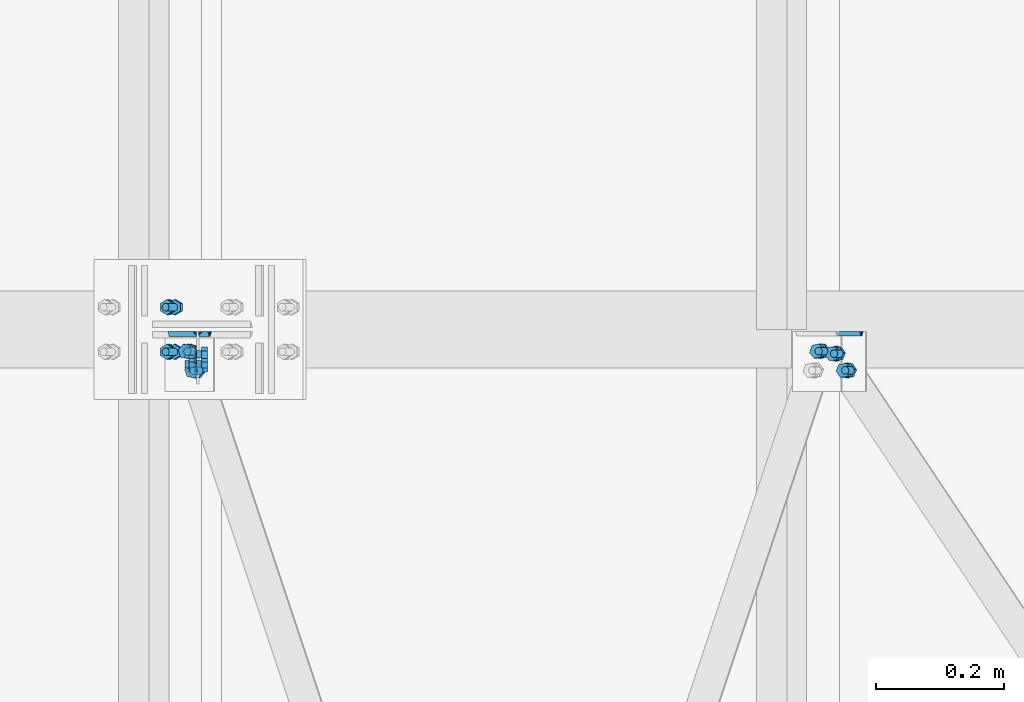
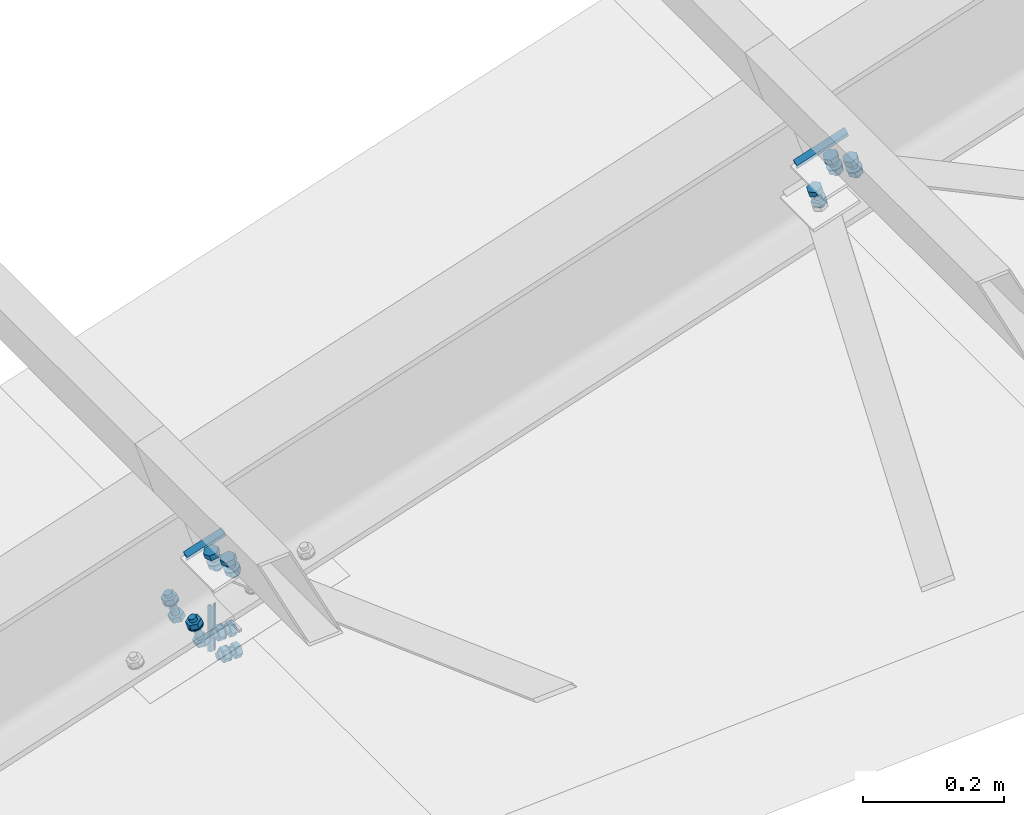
# One storey, part 38 of 53: 35 mechanical fasteners, 6 fasteners.
"""IFC4 building model written with IfcOpenShell, lengths in metres."""

import ifcopenshell
import ifcopenshell.guid

model = None  # the IFC model being written
_history = None  # IfcOwnerHistory: only IFC2X3 demands one
_inside = {}  # id of a spatial element -> (the spatial element, [elements in it])
_under = {}  # id of a project, library or spatial element -> (it, [spatial elements below it])
_declared = {}  # id of a project -> (the project, [libraries it declares])
_typed = {}  # id of a type object -> (the type object, [elements of that type])
_made_of = {}  # id of a material, layer set ... -> (it, [elements and type objects made of it])


def new_model(schema):
    """Start an empty IFC model of exactly this schema.

    Asked for "IFC4X3", IfcOpenShell would pick the latest addendum, in which some entities
    have other attributes; the version numbers below select the first issue.
    IFC2X3 requires an IfcOwnerHistory on every rooted entity: one is made here for all.
    """
    global model, _history
    if schema == "IFC4X3":
        model = ifcopenshell.file(schema_version=(4, 3, 0, 0))
    else:
        model = ifcopenshell.file(schema=schema)
    _inside.clear()
    _under.clear()
    _declared.clear()
    _typed.clear()
    _made_of.clear()
    _history = None
    if model.schema == "IFC2X3":
        org = make("IfcOrganization", Name="unknown")
        user = make(
            "IfcPersonAndOrganization",
            ThePerson=make("IfcPerson", FamilyName="unknown"),
            TheOrganization=org,
        )
        app = make(
            "IfcApplication",
            ApplicationDeveloper=org,
            Version="unknown",
            ApplicationFullName="unknown",
            ApplicationIdentifier="unknown",
        )
        _history = make(
            "IfcOwnerHistory",
            OwningUser=user,
            OwningApplication=app,
            ChangeAction="ADDED",
            CreationDate=0,
        )
    return model


def make(cls, **values):
    """One entity of the class cls with the attributes given. An attribute that is None is left unset."""
    return model.create_entity(
        cls, **{name: value for name, value in values.items() if value is not None}
    )


def rooted(cls, **values):
    """An entity with a GlobalId (a new one), such as an element, a storey or a relation."""
    return make(cls, GlobalId=ifcopenshell.guid.new(), OwnerHistory=_history, **values)


def si_unit(unit_type, name, prefix=None):
    """IfcSIUnit, for example si_unit("LENGTHUNIT", "METRE", prefix="MILLI")."""
    return make("IfcSIUnit", UnitType=unit_type, Prefix=prefix, Name=name)


def assignment(units):
    """IfcUnitAssignment: the units of a project."""
    return None if units is None else make("IfcUnitAssignment", Units=units)


def point(xyz):
    """IfcCartesianPoint."""
    return None if xyz is None else make("IfcCartesianPoint", Coordinates=xyz)


def direction(xyz):
    """IfcDirection."""
    return None if xyz is None else make("IfcDirection", DirectionRatios=xyz)


def frame(location, z_axis=None, x_axis=None):
    """IfcAxis2Placement3D, a coordinate frame: its origin and axes. An axis left out is left unset."""
    return make(
        "IfcAxis2Placement3D",
        Location=point(location),
        Axis=direction(z_axis),
        RefDirection=direction(x_axis),
    )


def origin_with_axes():
    """The frame at (0, 0, 0) with the z axis (0, 0, 1) and the x axis (1, 0, 0) written out."""
    return frame((0.0, 0.0, 0.0), z_axis=(0.0, 0.0, 1.0), x_axis=(1.0, 0.0, 0.0))


def place(relative_to, where):
    """IfcLocalPlacement: puts the frame where relative to a parent placement (None: the world)."""
    return make(
        "IfcLocalPlacement", PlacementRelTo=relative_to, RelativePlacement=where
    )


def context(
    kind, dimensions, precision=None, world=None, true_north=None, identifier=None
):
    """IfcGeometricRepresentationContext, for example the 3D "Model" context."""
    return make(
        "IfcGeometricRepresentationContext",
        ContextIdentifier=identifier,
        ContextType=kind,
        CoordinateSpaceDimension=dimensions,
        Precision=precision,
        WorldCoordinateSystem=world,
        TrueNorth=true_north,
    )


def project(units=None, contexts=None):
    """IfcProject with its units and contexts."""
    return rooted(
        "IfcProject",
        Name="project",
        RepresentationContexts=contexts,
        UnitsInContext=assignment(units),
    )


def spatial(cls, under=None, at=None, **own):
    """A site, building, storey or space (cls), placed at a placement, below another one or the project."""
    s = rooted(cls, ObjectPlacement=at, **own)
    if under is not None:
        _under.setdefault(under.id(), (under, []))[1].append(s)
    return s


def polyline(points):
    """IfcPolyline through the points."""
    return make("IfcPolyline", Points=[point(p) for p in points])


def outline(outer, holes=None, kind="AREA"):
    """IfcArbitraryClosedProfileDef: a profile drawn as a closed curve; with holes, ...WithVoids."""
    if holes is None:
        return make("IfcArbitraryClosedProfileDef", ProfileType=kind, OuterCurve=outer)
    return make(
        "IfcArbitraryProfileDefWithVoids",
        ProfileType=kind,
        OuterCurve=outer,
        InnerCurves=holes,
    )


def extrude(swept, where, along, depth):
    """IfcExtrudedAreaSolid: the profile swept, set in the frame where, extruded along a direction by depth."""
    return make(
        "IfcExtrudedAreaSolid",
        SweptArea=swept,
        Position=where,
        ExtrudedDirection=direction(along),
        Depth=depth,
    )


def shape(context_of_items, identifier, shape_type, items):
    """IfcShapeRepresentation: the items that make up one representation, for example the "Body"."""
    return make(
        "IfcShapeRepresentation",
        ContextOfItems=context_of_items,
        RepresentationIdentifier=identifier,
        RepresentationType=shape_type,
        Items=items,
    )


def made_of(thing, what):
    """Note that an element or type object is made of a material, layer set ...; save() writes the relation."""
    if what is not None:
        _made_of.setdefault(what.id(), (what, []))[1].append(thing)
    return thing


def type_object(cls, material=None, **own):
    """A type object (cls), such as IfcWallType, which elements share."""
    return made_of(rooted(cls, **own), material)


def element(
    cls,
    number,
    at=None,
    inside=None,
    cuts=None,
    type_object=None,
    material=None,
    context=None,
    identifier="Body",
    shape_type=None,
    held_by="IfcProductDefinitionShape",
    body=None,
    shapes=None,
    **own,
):
    """One element of the class cls, such as IfcWall. Its Tag is "e" and its number.

    at: its placement. inside: the storey or other place that contains it. cuts: it is an
    opening in that element (IfcRelVoidsElement). A single representation is given by context,
    identifier, shape_type and body (its items); several are given by shapes. held_by: the class
    of the entity that holds the representations. save() writes the other relations.
    """
    e = rooted(cls, Tag="e%d" % number, ObjectPlacement=at, **own)
    if body is not None:
        shapes = [shape(context, identifier, shape_type, body)]
    if shapes is not None:
        e.Representation = make(held_by, Representations=shapes)
    if inside is not None:
        _inside.setdefault(inside.id(), (inside, []))[1].append(e)
    if cuts is not None:
        rooted(
            "IfcRelVoidsElement", RelatingBuildingElement=cuts, RelatedOpeningElement=e
        )
    if type_object is not None:
        _typed.setdefault(type_object.id(), (type_object, []))[1].append(e)
    return made_of(e, material)


def aggregate(whole, parts):
    """IfcRelAggregates: a whole, such as a stair, and the parts it consists of."""
    return rooted("IfcRelAggregates", RelatingObject=whole, RelatedObjects=parts)


def save(model, path):
    """Write the relations noted so far, then the file.

    IfcRelAggregates (storeys below a building ...), IfcRelContainedInSpatialStructure (elements
    in a storey), IfcRelDefinesByType, IfcRelAssociatesMaterial and IfcRelDeclares: one each for
    every whole, place, type object, material and project.
    """
    for whole, parts in _under.values():
        aggregate(whole, parts)
    for where, things in _inside.values():
        rooted(
            "IfcRelContainedInSpatialStructure",
            RelatedElements=things,
            RelatingStructure=where,
        )
    for kind, things in _typed.values():
        rooted("IfcRelDefinesByType", RelatedObjects=things, RelatingType=kind)
    for what, things in _made_of.values():
        rooted("IfcRelAssociatesMaterial", RelatedObjects=things, RelatingMaterial=what)
    for by, libraries in _declared.values():
        rooted("IfcRelDeclares", RelatingContext=by, RelatedDefinitions=libraries)
    model.write(path)


model = new_model("IFC4")

# Units and contexts
model_context = context("Model", 3, precision=1e-05, world=origin_with_axes())
ifc_project = project(units=[si_unit("LENGTHUNIT", "METRE"), si_unit("AREAUNIT", "SQUARE_METRE"), si_unit("VOLUMEUNIT", "CUBIC_METRE"), si_unit("MASSUNIT", "GRAM", prefix="KILO"), si_unit("TIMEUNIT", "SECOND"), si_unit("PLANEANGLEUNIT", "RADIAN"), si_unit("SOLIDANGLEUNIT", "STERADIAN"), si_unit("THERMODYNAMICTEMPERATUREUNIT", "DEGREE_CELSIUS")], contexts=[model_context])

# Site, building, storey
placement_1 = place(None, origin_with_axes())
site = spatial("IfcSite", under=ifc_project, at=placement_1, Name="Italia", CompositionType="ELEMENT")
building = spatial("IfcBuilding", under=site, at=placement_1, Name="Capannone", CompositionType="ELEMENT")
storey_placement = place(None, frame((0.0, 0.0, 5.550000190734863), z_axis=(0.0, 0.0, 1.0), x_axis=(1.0, 0.0, 0.0)))
storey = spatial("IfcBuildingStorey", under=building, at=storey_placement, Name="Storey 1", CompositionType="ELEMENT", Elevation=5.550000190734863)

# Mechanical fasteners
mechanical_fastener_type_1 = type_object("IfcMechanicalFastenerType", Name="Collegamento -1057_-1087", PredefinedType="BOLT")
placement_2 = place(placement_1, origin_with_axes())
mechanical_fastener_1_placement = place(placement_2, origin_with_axes())
element("IfcMechanicalFastener", 1, at=mechanical_fastener_1_placement, inside=storey, type_object=mechanical_fastener_type_1, Name="Collegamento -1057_-1087", NominalDiameter=0.0119996, context=model_context, shape_type="SweptSolid", body=[
    extrude(outline(polyline([(0.0, 0.0), (-0.00982285, -0.00689292), (-0.00876427, -0.018846), (0.0021162, -0.0239065), (0.011939, -0.0170135), (0.0108805, -0.0050602), (0.0, 0.0)])), frame((1.00308, 14.9631, 5.99274), z_axis=(-0.312149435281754, 0.0, 0.950033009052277), x_axis=(0.0, -1.0, 0.0)), (0.0, 0.0, 1.0), 0.00960016),
])
mechanical_fastener_type_2 = type_object("IfcMechanicalFastenerType", Name="Collegamento -1057_-1087", PredefinedType="BOLT")
mechanical_fastener_2_placement = place(placement_2, origin_with_axes())
element("IfcMechanicalFastener", 2, at=mechanical_fastener_2_placement, inside=storey, type_object=mechanical_fastener_type_2, Name="Collegamento -1057_-1087", NominalDiameter=0.012, context=model_context, shape_type="SweptSolid", body=[
    extrude(outline(polyline([(0.0, 0.0), (-0.000204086, -0.00155306), (-0.000802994, -0.00300026), (-0.00175667, -0.00424266), (-0.00299931, -0.00519633), (-0.00444698, -0.00579572), (-0.00599957, -0.00600004), (-0.00755215, -0.00579572), (-0.00899982, -0.00519633), (-0.0102425, -0.00424266), (-0.0111961, -0.00300026), (-0.011795, -0.00155306), (-0.0119991, 0.0), (-0.011795, 0.00155282), (-0.0111961, 0.00300002), (-0.0102425, 0.00424266), (-0.00899982, 0.00519609), (-0.00755215, 0.00579548), (-0.00599957, 0.00600004), (-0.00444698, 0.00579548), (-0.00299931, 0.00519609), (-0.00175667, 0.00424242), (-0.000802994, 0.00300002), (-0.000204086, 0.00155282), (0.0, 0.0)])), frame((1.00046, 14.9561, 5.96241), z_axis=(-0.312152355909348, 0.0, 0.95003205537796), x_axis=(0.0, -1.0, 0.0)), (0.0, 0.0, 1.0), 0.0279999),
])
mechanical_fastener_type_3 = type_object("IfcMechanicalFastenerType", Name="Collegamento -1057_-1087", PredefinedType="BOLT")
mechanical_fastener_3_placement = place(placement_2, origin_with_axes())
element("IfcMechanicalFastener", 3, at=mechanical_fastener_3_placement, inside=storey, type_object=mechanical_fastener_type_3, Name="Collegamento -1057_-1087", NominalDiameter=0.0119997, context=model_context, shape_type="SweptSolid", body=[
    extrude(outline(polyline([(0.0, 0.0), (-0.00982285, -0.00689292), (-0.00876427, -0.0188463), (0.0021162, -0.0239067), (0.011939, -0.0170138), (0.0108805, -0.00506043), (0.0, 0.0)])), frame((1.00982, 14.9631, 5.97222), z_axis=(-0.312149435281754, 0.0, 0.950033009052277), x_axis=(0.0, -1.0, 0.0)), (0.0, 0.0, 1.0), 0.00960016),
])
mechanical_fastener_type_4 = type_object("IfcMechanicalFastenerType", Name="Collegamento -1057_-1087", PredefinedType="BOLT")
mechanical_fastener_4_placement = place(placement_2, origin_with_axes())
element("IfcMechanicalFastener", 4, at=mechanical_fastener_4_placement, inside=storey, type_object=mechanical_fastener_type_4, Name="Collegamento -1057_-1087", NominalDiameter=0.024, context=model_context, shape_type="SweptSolid", body=[
    extrude(outline(polyline([(0.0, 0.0), (-0.000409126, -0.00310588), (-0.00160789, -0.00600004), (-0.00351524, -0.00848556), (-0.00600052, -0.0103924), (-0.00889397, -0.0115912), (-0.0120001, -0.0120001), (-0.0151062, -0.0115912), (-0.0179996, -0.0103924), (-0.0204849, -0.00848556), (-0.0223923, -0.00600004), (-0.023591, -0.00310588), (-0.0240002, 0.0), (-0.023591, 0.00310564), (-0.0223923, 0.0059998), (-0.0204849, 0.00848532), (-0.0179996, 0.0103922), (-0.0151062, 0.011591), (-0.0120001, 0.0120001), (-0.00889397, 0.011591), (-0.00600052, 0.0103922), (-0.00351524, 0.00848532), (-0.00160789, 0.0059998), (-0.000409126, 0.00310564), (0.0, 0.0)])), frame((0.99547, 14.9501, 5.97761), z_axis=(-0.312200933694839, 0.0, 0.95001608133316), x_axis=(0.0, -1.0, 0.0)), (0.0, 0.0, 1.0), 0.00199967),
])
mechanical_fastener_type_5 = type_object("IfcMechanicalFastenerType", Name="Collegamento -1057_-1087", PredefinedType="BOLT")
mechanical_fastener_5_placement = place(placement_2, origin_with_axes())
element("IfcMechanicalFastener", 5, at=mechanical_fastener_5_placement, inside=storey, type_object=mechanical_fastener_type_5, Name="Collegamento -1057_-1087", NominalDiameter=0.0119993, context=model_context, shape_type="SweptSolid", body=[
    extrude(outline(polyline([(0.0, 0.0), (-0.00982285, -0.00689268), (-0.00876522, -0.018846), (0.0021162, -0.0239065), (0.0119381, -0.0170135), (0.0108805, -0.0050602), (0.0, 0.0)])), frame((1.02054, 14.9369, 5.99848), z_axis=(-0.312149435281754, 0.0, 0.950033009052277), x_axis=(0.0, -1.0, 0.0)), (0.0, 0.0, 1.0), 0.00960016),
])
mechanical_fastener_type_6 = type_object("IfcMechanicalFastenerType", Name="Collegamento -1057_-1087", PredefinedType="BOLT")
mechanical_fastener_6_placement = place(placement_2, origin_with_axes())
element("IfcMechanicalFastener", 6, at=mechanical_fastener_6_placement, inside=storey, type_object=mechanical_fastener_type_6, Name="Collegamento -1057_-1087", NominalDiameter=0.012, context=model_context, shape_type="SweptSolid", body=[
    extrude(outline(polyline([(0.0, 0.0), (-0.000204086, -0.00155282), (-0.000802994, -0.00299978), (-0.00175667, -0.00424242), (-0.00299931, -0.00519609), (-0.00444698, -0.00579548), (-0.00599957, -0.00600004), (-0.00755215, -0.00579548), (-0.00899982, -0.00519609), (-0.0102425, -0.00424242), (-0.0111961, -0.00299978), (-0.011795, -0.00155282), (-0.0119991, 0.0), (-0.011795, 0.00155306), (-0.0111961, 0.00300002), (-0.0102425, 0.0042429), (-0.00899982, 0.00519633), (-0.00755215, 0.00579548), (-0.00599957, 0.00600028), (-0.00444698, 0.00579548), (-0.00299931, 0.00519633), (-0.00175667, 0.0042429), (-0.000802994, 0.00300002), (-0.000204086, 0.00155306), (0.0, 0.0)])), frame((1.01793, 14.9299, 5.96814), z_axis=(-0.312150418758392, 0.0, 0.950032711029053), x_axis=(0.0, -1.0, 0.0)), (0.0, 0.0, 1.0), 0.0279999),
])
mechanical_fastener_type_7 = type_object("IfcMechanicalFastenerType", Name="Collegamento -1057_-1087", PredefinedType="BOLT")
mechanical_fastener_7_placement = place(placement_2, origin_with_axes())
element("IfcMechanicalFastener", 7, at=mechanical_fastener_7_placement, inside=storey, type_object=mechanical_fastener_type_7, Name="Collegamento -1057_-1087", NominalDiameter=0.0119992, context=model_context, shape_type="SweptSolid", body=[
    extrude(outline(polyline([(0.0, 0.0), (-0.00982285, -0.00689292), (-0.00876522, -0.0188463), (0.0021162, -0.0239065), (0.0119381, -0.0170138), (0.0108805, -0.00506043), (0.0, 0.0)])), frame((1.02728, 14.9369, 5.97795), z_axis=(-0.312149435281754, 0.0, 0.950033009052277), x_axis=(0.0, -1.0, 0.0)), (0.0, 0.0, 1.0), 0.00960016),
])
mechanical_fastener_type_8 = type_object("IfcMechanicalFastenerType", Name="Collegamento -1057_-1087", PredefinedType="BOLT")
mechanical_fastener_8_placement = place(placement_2, origin_with_axes())
element("IfcMechanicalFastener", 8, at=mechanical_fastener_8_placement, inside=storey, type_object=mechanical_fastener_type_8, Name="Collegamento -1057_-1087", NominalDiameter=0.024, context=model_context, shape_type="SweptSolid", body=[
    extrude(outline(polyline([(0.0, 0.0), (-0.000409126, -0.00310612), (-0.00160789, -0.00600004), (-0.00351524, -0.00848532), (-0.00600052, -0.0103927), (-0.00889397, -0.0115914), (-0.0120001, -0.0120001), (-0.0151062, -0.0115914), (-0.0179996, -0.0103927), (-0.0204849, -0.00848532), (-0.0223923, -0.00600004), (-0.023591, -0.00310612), (-0.0240002, 0.0), (-0.023591, 0.00310564), (-0.0223923, 0.0059998), (-0.0204849, 0.00848508), (-0.0179996, 0.0103922), (-0.0151062, 0.011591), (-0.0120001, 0.0119998), (-0.00889397, 0.011591), (-0.00600052, 0.0103922), (-0.00351524, 0.00848508), (-0.00160789, 0.0059998), (-0.000409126, 0.00310564), (0.0, 0.0)])), frame((1.01293, 14.9239, 5.98334), z_axis=(-0.312059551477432, 0.0, 0.95006251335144), x_axis=(0.0, -1.0, 0.0)), (0.0, 0.0, 1.0), 0.00200058),
])

# Fasteners
fastener_type_1 = type_object("IfcFastenerType", Name="Collegamento -1057_-1087", PredefinedType="WELD")
fastener_1_placement = place(placement_2, origin_with_axes())
element("IfcFastener", 9, at=fastener_1_placement, inside=storey, type_object=fastener_type_1, Name="Collegamento -1057_-1087", context=model_context, shape_type="SweptSolid", body=[
    extrude(outline(polyline([(0.0, 0.0), (-0.00717258, 0.00695753), (0.0, 0.00695753), (0.0, 0.0)])), frame((0.954126, 14.9969, 5.96412), z_axis=(0.950030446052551, 0.0, 0.312157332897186), x_axis=(0.0, 1.0, 0.0)), (0.0, 0.0, 1.0), 0.0880986),
])
fastener_type_2 = type_object("IfcFastenerType", Name="Collegamento -1057_-1087", PredefinedType="WELD")
fastener_2_placement = place(placement_2, origin_with_axes())
element("IfcFastener", 10, at=fastener_2_placement, inside=storey, type_object=fastener_type_2, Name="Collegamento -1057_-1087", context=model_context, shape_type="SweptSolid", body=[
    extrude(outline(polyline([(0.0, 0.0), (0.00717258, -0.00695848), (0.0, -0.00695848), (0.0, 0.0)])), frame((1.03195, 14.9969, 6.00949), z_axis=(-0.950030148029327, 0.0, -0.312158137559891), x_axis=(0.0, -1.0, 0.0)), (0.0, 0.0, 1.0), 0.0880984),
])

# Mechanical fasteners
mechanical_fastener_type_9 = type_object("IfcMechanicalFastenerType", Name="Collegamento -1057_0109", PredefinedType="BOLT")
mechanical_fastener_9_placement = place(placement_2, origin_with_axes())
element("IfcMechanicalFastener", 11, at=mechanical_fastener_9_placement, inside=storey, type_object=mechanical_fastener_type_9, Name="Collegamento -1057_0109", NominalDiameter=0.0119998, context=model_context, shape_type="SweptSolid", body=[
    extrude(outline(polyline([(0.0, 0.0), (-0.011323, 0.00397301), (-0.0204258, -0.00384665), (-0.0182047, -0.0156395), (-0.00688171, -0.0196123), (0.00222111, -0.0117927), (0.0, 0.0)])), frame((0.975017, 14.9569, 5.94141), z_axis=(-0.312149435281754, 0.0, 0.950033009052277), x_axis=(0.0, -1.0, 0.0)), (0.0, 0.0, 1.0), 0.00960016),
])
mechanical_fastener_type_10 = type_object("IfcMechanicalFastenerType", Name="Collegamento -1057_0109", PredefinedType="BOLT")
mechanical_fastener_10_placement = place(placement_2, origin_with_axes())
element("IfcMechanicalFastener", 12, at=mechanical_fastener_10_placement, inside=storey, type_object=mechanical_fastener_type_10, Name="Collegamento -1057_0109", NominalDiameter=0.012, context=model_context, shape_type="SweptSolid", body=[
    extrude(outline(polyline([(0.0, 0.0), (-0.000204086, -0.00155306), (-0.000802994, -0.00300026), (-0.00175667, -0.00424266), (-0.00299931, -0.00519633), (-0.00444698, -0.00579572), (-0.00599957, -0.00600004), (-0.00755215, -0.00579572), (-0.00899982, -0.00519633), (-0.0102425, -0.00424266), (-0.0111961, -0.00300026), (-0.011795, -0.00155306), (-0.0119991, 0.0), (-0.011795, 0.00155282), (-0.0111961, 0.00300002), (-0.0102425, 0.00424242), (-0.00899982, 0.00519609), (-0.00755215, 0.00579548), (-0.00599957, 0.00600004), (-0.00444698, 0.00579548), (-0.00299931, 0.00519609), (-0.00175667, 0.00424242), (-0.000802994, 0.00300002), (-0.000204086, 0.00155282), (0.0, 0.0)])), frame((0.976328, 14.96, 5.91237), z_axis=(-0.312152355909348, 0.0, 0.95003205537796), x_axis=(0.0, -1.0, 0.0)), (0.0, 0.0, 1.0), 0.0279999),
])
mechanical_fastener_type_11 = type_object("IfcMechanicalFastenerType", Name="Collegamento -1057_0109", PredefinedType="BOLT")
mechanical_fastener_11_placement = place(placement_2, origin_with_axes())
element("IfcMechanicalFastener", 13, at=mechanical_fastener_11_placement, inside=storey, type_object=mechanical_fastener_type_11, Name="Collegamento -1057_0109", NominalDiameter=0.0119998, context=model_context, shape_type="SweptSolid", body=[
    extrude(outline(polyline([(0.0, 0.0), (-0.011323, 0.00397301), (-0.0204258, -0.00384688), (-0.0182047, -0.0156395), (-0.00688171, -0.0196126), (0.00222111, -0.0117927), (0.0, 0.0)])), frame((0.98176, 14.9569, 5.92089), z_axis=(-0.312143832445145, 0.0, 0.950034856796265), x_axis=(0.0, -1.0, 0.0)), (0.0, 0.0, 1.0), 0.00960014),
])
mechanical_fastener_type_12 = type_object("IfcMechanicalFastenerType", Name="Collegamenti 0101_0001 0103_0003 0105_0005 0107_0007 0109_0009 0111_0011", PredefinedType="BOLT")
mechanical_fastener_12_placement = place(placement_2, origin_with_axes())
element("IfcMechanicalFastener", 14, at=mechanical_fastener_12_placement, inside=storey, type_object=mechanical_fastener_type_12, Name="Collegamenti 0101_0001 0103_0003 0105_0005 0107_0007 0109_0009 0111_0011", NominalDiameter=0.0119998, context=model_context, shape_type="SweptSolid", body=[
    extrude(outline(polyline([(0.0, 0.0), (0.0120001, 0.0), (0.0179996, -0.0103922), (0.0120001, -0.0207846), (0.0, -0.0207846), (-0.00600052, -0.0103922), (0.0, 0.0)])), frame((-0.0329462, 15.029, 5.52339), z_axis=(0.312148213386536, 0.0, -0.95003342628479), x_axis=(0.0, 1.0, 0.0)), (0.0, 0.0, 1.0), 0.00960015),
])
mechanical_fastener_type_13 = type_object("IfcMechanicalFastenerType", Name="Collegamenti 0101_0001 0103_0003 0105_0005 0107_0007 0109_0009 0111_0011", PredefinedType="BOLT")
mechanical_fastener_13_placement = place(placement_2, origin_with_axes())
element("IfcMechanicalFastener", 15, at=mechanical_fastener_13_placement, inside=storey, type_object=mechanical_fastener_type_13, Name="Collegamenti 0101_0001 0103_0003 0105_0005 0107_0007 0109_0009 0111_0011", NominalDiameter=0.012, context=model_context, shape_type="SweptSolid", body=[
    extrude(outline(polyline([(0.0, 0.0), (-0.000204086, -0.00155294), (-0.000802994, -0.00300002), (-0.00175667, -0.00424266), (-0.00299931, -0.00519621), (-0.00444698, -0.0057956), (-0.00599957, -0.00600004), (-0.00755215, -0.0057956), (-0.00899982, -0.00519621), (-0.0102425, -0.00424266), (-0.0111961, -0.00300002), (-0.011795, -0.00155294), (-0.0119991, 0.0), (-0.011795, 0.00155306), (-0.0111961, 0.00300002), (-0.0102425, 0.00424254), (-0.00899982, 0.00519609), (-0.00755215, 0.0057956), (-0.00599957, 0.00600004), (-0.00444698, 0.0057956), (-0.00299931, 0.00519609), (-0.00175667, 0.00424254), (-0.000802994, 0.00300002), (-0.000204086, 0.00155306), (0.0, 0.0)])), frame((-0.0561794, 15.041, 5.5608), z_axis=(0.312153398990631, 0.0, -0.950031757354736), x_axis=(0.0, 1.0, 0.0)), (0.0, 0.0, 1.0), 0.0428),
])
mechanical_fastener_type_14 = type_object("IfcMechanicalFastenerType", Name="Collegamenti 0101_0001 0103_0003 0105_0005 0107_0007 0109_0009 0111_0011", PredefinedType="BOLT")
mechanical_fastener_14_placement = place(placement_2, origin_with_axes())
element("IfcMechanicalFastener", 16, at=mechanical_fastener_14_placement, inside=storey, type_object=mechanical_fastener_type_14, Name="Collegamenti 0101_0001 0103_0003 0105_0005 0107_0007 0109_0009 0111_0011", NominalDiameter=0.0119998, context=model_context, shape_type="SweptSolid", body=[
    extrude(outline(polyline([(0.0, 0.0), (0.0120001, 0.0), (0.0179996, -0.0103922), (0.0120001, -0.0207845), (0.0, -0.0207845), (-0.00600052, -0.0103922), (0.0, 0.0)])), frame((-0.0443086, 15.029, 5.55797), z_axis=(0.31214839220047, 0.0, -0.9500333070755), x_axis=(0.0, 1.0, 0.0)), (0.0, 0.0, 1.0), 0.00960015),
])
mechanical_fastener_type_15 = type_object("IfcMechanicalFastenerType", Name="Collegamenti 0101_0001 0103_0003 0105_0005 0107_0007 0109_0009 0111_0011", PredefinedType="BOLT")
mechanical_fastener_15_placement = place(placement_2, origin_with_axes())
element("IfcMechanicalFastener", 17, at=mechanical_fastener_15_placement, inside=storey, type_object=mechanical_fastener_type_15, Name="Collegamenti 0101_0001 0103_0003 0105_0005 0107_0007 0109_0009 0111_0011", NominalDiameter=0.024, context=model_context, shape_type="SweptSolid", body=[
    extrude(outline(polyline([(0.0, 0.0), (-0.000409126, -0.00310588), (-0.00160789, -0.00600004), (-0.00351524, -0.00848532), (-0.00600052, -0.0103923), (-0.00889397, -0.0115912), (-0.0120001, -0.012), (-0.0151062, -0.0115912), (-0.0179996, -0.0103923), (-0.0204849, -0.00848532), (-0.0223923, -0.00600004), (-0.023591, -0.00310588), (-0.0240002, 0.0), (-0.023591, 0.00310588), (-0.0223923, 0.00600004), (-0.0204849, 0.0084852), (-0.0179996, 0.0103923), (-0.0151062, 0.0115912), (-0.0120001, 0.012), (-0.00889397, 0.0115912), (-0.00600052, 0.0103923), (-0.00351524, 0.0084852), (-0.00160789, 0.00600004), (-0.000409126, 0.00310588), (0.0, 0.0)])), frame((-0.051185, 15.047, 5.5456), z_axis=(0.312062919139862, 0.0, -0.950061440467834), x_axis=(0.0, 1.0, 0.0)), (0.0, 0.0, 1.0), 0.00200058),
])
mechanical_fastener_type_16 = type_object("IfcMechanicalFastenerType", Name="Collegamenti 0101_0001 0103_0003 0105_0005 0107_0007 0109_0009 0111_0011", PredefinedType="BOLT")
mechanical_fastener_16_placement = place(placement_2, origin_with_axes())
element("IfcMechanicalFastener", 18, at=mechanical_fastener_16_placement, inside=storey, type_object=mechanical_fastener_type_16, Name="Collegamenti 0101_0001 0103_0003 0105_0005 0107_0007 0109_0009 0111_0011", NominalDiameter=0.0119998, context=model_context, shape_type="SweptSolid", body=[
    extrude(outline(polyline([(0.0, 0.0), (0.0120001, 0.0), (0.0180006, -0.0103922), (0.0120001, -0.0207846), (0.0, -0.0207846), (-0.00599957, -0.0103922), (0.0, 0.0)])), frame((-0.0329462, 14.959, 5.52339), z_axis=(0.312148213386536, 0.0, -0.95003342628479), x_axis=(0.0, 1.0, 0.0)), (0.0, 0.0, 1.0), 0.00960015),
])
mechanical_fastener_type_17 = type_object("IfcMechanicalFastenerType", Name="Collegamenti 0101_0001 0103_0003 0105_0005 0107_0007 0109_0009 0111_0011", PredefinedType="BOLT")
mechanical_fastener_17_placement = place(placement_2, origin_with_axes())
element("IfcMechanicalFastener", 19, at=mechanical_fastener_17_placement, inside=storey, type_object=mechanical_fastener_type_17, Name="Collegamenti 0101_0001 0103_0003 0105_0005 0107_0007 0109_0009 0111_0011", NominalDiameter=0.012, context=model_context, shape_type="SweptSolid", body=[
    extrude(outline(polyline([(0.0, 0.0), (-0.000204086, -0.00155294), (-0.000802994, -0.00300002), (-0.00175667, -0.00424266), (-0.00299931, -0.00519621), (-0.00444698, -0.0057956), (-0.00599957, -0.00600004), (-0.00755215, -0.0057956), (-0.00899982, -0.00519621), (-0.0102425, -0.00424266), (-0.0111961, -0.00300002), (-0.011795, -0.00155294), (-0.0119991, 0.0), (-0.011795, 0.00155306), (-0.0111961, 0.00300002), (-0.0102425, 0.00424254), (-0.00899982, 0.00519609), (-0.00755215, 0.0057956), (-0.00599957, 0.00600004), (-0.00444698, 0.0057956), (-0.00299931, 0.00519609), (-0.00175667, 0.00424254), (-0.000802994, 0.00300002), (-0.000204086, 0.00155306), (0.0, 0.0)])), frame((-0.0561794, 14.971, 5.5608), z_axis=(0.312153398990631, 0.0, -0.950031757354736), x_axis=(0.0, 1.0, 0.0)), (0.0, 0.0, 1.0), 0.0428),
])
mechanical_fastener_type_18 = type_object("IfcMechanicalFastenerType", Name="Collegamenti 0101_0001 0103_0003 0105_0005 0107_0007 0109_0009 0111_0011", PredefinedType="BOLT")
mechanical_fastener_18_placement = place(placement_2, origin_with_axes())
element("IfcMechanicalFastener", 20, at=mechanical_fastener_18_placement, inside=storey, type_object=mechanical_fastener_type_18, Name="Collegamenti 0101_0001 0103_0003 0105_0005 0107_0007 0109_0009 0111_0011", NominalDiameter=0.0119998, context=model_context, shape_type="SweptSolid", body=[
    extrude(outline(polyline([(0.0, 0.0), (0.0120001, 0.0), (0.0180006, -0.0103922), (0.0120001, -0.0207845), (0.0, -0.0207845), (-0.00599957, -0.0103922), (0.0, 0.0)])), frame((-0.0443086, 14.959, 5.55797), z_axis=(0.31214839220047, 0.0, -0.9500333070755), x_axis=(0.0, 1.0, 0.0)), (0.0, 0.0, 1.0), 0.00960015),
])
mechanical_fastener_type_19 = type_object("IfcMechanicalFastenerType", Name="Collegamenti 0101_0001 0103_0003 0105_0005 0107_0007 0109_0009 0111_0011", PredefinedType="BOLT")
mechanical_fastener_19_placement = place(placement_2, origin_with_axes())
element("IfcMechanicalFastener", 21, at=mechanical_fastener_19_placement, inside=storey, type_object=mechanical_fastener_type_19, Name="Collegamenti 0101_0001 0103_0003 0105_0005 0107_0007 0109_0009 0111_0011", NominalDiameter=0.024, context=model_context, shape_type="SweptSolid", body=[
    extrude(outline(polyline([(0.0, 0.0), (-0.000409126, -0.00310588), (-0.00160789, -0.00600004), (-0.00351524, -0.00848532), (-0.00600052, -0.0103923), (-0.00889397, -0.0115912), (-0.0120001, -0.012), (-0.0151062, -0.0115912), (-0.0179996, -0.0103923), (-0.0204849, -0.00848532), (-0.0223923, -0.00600004), (-0.023591, -0.00310588), (-0.0240002, 0.0), (-0.023591, 0.00310588), (-0.0223923, 0.00600004), (-0.0204849, 0.0084852), (-0.0179996, 0.0103923), (-0.0151062, 0.0115912), (-0.0120001, 0.012), (-0.00889397, 0.0115912), (-0.00600052, 0.0103923), (-0.00351524, 0.0084852), (-0.00160789, 0.00600004), (-0.000409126, 0.00310588), (0.0, 0.0)])), frame((-0.051185, 14.977, 5.5456), z_axis=(0.312062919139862, 0.0, -0.950061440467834), x_axis=(0.0, 1.0, 0.0)), (0.0, 0.0, 1.0), 0.00200058),
])
mechanical_fastener_type_20 = type_object("IfcMechanicalFastenerType", Name="Collegamento 0111_-1055", PredefinedType="BOLT")
mechanical_fastener_20_placement = place(placement_2, origin_with_axes())
element("IfcMechanicalFastener", 22, at=mechanical_fastener_20_placement, inside=storey, type_object=mechanical_fastener_type_20, Name="Collegamento 0111_-1055", NominalDiameter=0.0119997, context=model_context, shape_type="SweptSolid", body=[
    extrude(outline(polyline([(0.0, 0.0), (-0.011323, -0.00397277), (-0.0135441, -0.0157654), (-0.00444221, -0.0235852), (0.00688171, -0.0196123), (0.00910187, -0.00781965), (0.0, 0.0)])), frame((-0.0108784, 14.9634, 5.65958), z_axis=(-0.31214839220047, 0.0, 0.9500333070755), x_axis=(0.0, -1.0, 0.0)), (0.0, 0.0, 1.0), 0.00960015),
])
mechanical_fastener_type_21 = type_object("IfcMechanicalFastenerType", Name="Collegamento 0111_-1055", PredefinedType="BOLT")
mechanical_fastener_21_placement = place(placement_2, origin_with_axes())
element("IfcMechanicalFastener", 23, at=mechanical_fastener_21_placement, inside=storey, type_object=mechanical_fastener_type_21, Name="Collegamento 0111_-1055", NominalDiameter=0.012, context=model_context, shape_type="SweptSolid", body=[
    extrude(outline(polyline([(0.0, 0.0), (-0.000204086, -0.00155294), (-0.000802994, -0.00300014), (-0.00175667, -0.00424266), (-0.00299931, -0.00519621), (-0.00444698, -0.00579548), (-0.00599957, -0.00600004), (-0.00755215, -0.00579548), (-0.00899982, -0.00519621), (-0.0102425, -0.00424266), (-0.0111961, -0.00300014), (-0.011795, -0.00155294), (-0.0119991, 0.0), (-0.011795, 0.00155294), (-0.0111961, 0.00300002), (-0.0102425, 0.00424254), (-0.00899982, 0.00519621), (-0.00755215, 0.00579548), (-0.00599957, 0.00599992), (-0.00444698, 0.00579548), (-0.00299931, 0.00519621), (-0.00175667, 0.00424254), (-0.000802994, 0.00300002), (-0.000204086, 0.00155294), (0.0, 0.0)])), frame((-0.0133415, 14.9596, 5.6293), z_axis=(-0.312156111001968, 0.0, 0.95003080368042), x_axis=(0.0, -1.0, 0.0)), (0.0, 0.0, 1.0), 0.028),
])
mechanical_fastener_type_22 = type_object("IfcMechanicalFastenerType", Name="Collegamento 0111_-1055", PredefinedType="BOLT")
mechanical_fastener_22_placement = place(placement_2, origin_with_axes())
element("IfcMechanicalFastener", 24, at=mechanical_fastener_22_placement, inside=storey, type_object=mechanical_fastener_type_22, Name="Collegamento 0111_-1055", NominalDiameter=0.0119997, context=model_context, shape_type="SweptSolid", body=[
    extrude(outline(polyline([(0.0, 0.0), (-0.011323, -0.00397277), (-0.0135441, -0.0157654), (-0.00444221, -0.0235852), (0.00688171, -0.0196123), (0.00910187, -0.00781965), (0.0, 0.0)])), frame((-0.00413587, 14.9634, 5.63906), z_axis=(-0.312148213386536, 0.0, 0.95003342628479), x_axis=(0.0, -1.0, 0.0)), (0.0, 0.0, 1.0), 0.00960015),
])
mechanical_fastener_type_23 = type_object("IfcMechanicalFastenerType", Name="Collegamento 0111_-1055", PredefinedType="BOLT")
mechanical_fastener_23_placement = place(placement_2, origin_with_axes())
element("IfcMechanicalFastener", 25, at=mechanical_fastener_23_placement, inside=storey, type_object=mechanical_fastener_type_23, Name="Collegamento 0111_-1055", NominalDiameter=0.024, context=model_context, shape_type="SweptSolid", body=[
    extrude(outline(polyline([(0.0, 0.0), (-0.000409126, -0.00310588), (-0.00160789, -0.00600004), (-0.00351524, -0.0084852), (-0.00600052, -0.0103924), (-0.00889397, -0.0115911), (-0.0120001, -0.012), (-0.0151062, -0.0115911), (-0.0179996, -0.0103924), (-0.0204849, -0.0084852), (-0.0223923, -0.00600004), (-0.023591, -0.00310588), (-0.0240002, 0.0), (-0.023591, 0.00310576), (-0.0223923, 0.00600004), (-0.0204849, 0.0084852), (-0.0179996, 0.0103923), (-0.0151062, 0.0115911), (-0.0120001, 0.012), (-0.00889397, 0.0115911), (-0.00600052, 0.0103923), (-0.00351524, 0.0084852), (-0.00160789, 0.00600004), (-0.000409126, 0.00310576), (0.0, 0.0)])), frame((-0.018336, 14.9536, 5.6445), z_axis=(-0.312134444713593, 0.0, 0.950037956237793), x_axis=(0.0, -1.0, 0.0)), (0.0, 0.0, 1.0), 0.00200013),
])
mechanical_fastener_type_24 = type_object("IfcMechanicalFastenerType", Name="Collegamento 0111_-1055", PredefinedType="BOLT")
mechanical_fastener_24_placement = place(placement_2, origin_with_axes())
element("IfcMechanicalFastener", 26, at=mechanical_fastener_24_placement, inside=storey, type_object=mechanical_fastener_type_24, Name="Collegamento 0111_-1055", NominalDiameter=0.0119997, context=model_context, shape_type="SweptSolid", body=[
    extrude(outline(polyline([(0.0, 0.0), (-0.011323, -0.00397301), (-0.0135441, -0.0157658), (-0.00444221, -0.0235856), (0.00688171, -0.0196126), (0.00910282, -0.00781977), (0.0, 0.0)])), frame((-0.000813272, 14.9332, 5.66289), z_axis=(-0.312163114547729, 0.0, 0.950028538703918), x_axis=(0.0, -1.0, 0.0)), (0.0, 0.0, 1.0), 0.0095997),
])
mechanical_fastener_type_25 = type_object("IfcMechanicalFastenerType", Name="Collegamento 0111_-1055", PredefinedType="BOLT")
mechanical_fastener_25_placement = place(placement_2, origin_with_axes())
element("IfcMechanicalFastener", 27, at=mechanical_fastener_25_placement, inside=storey, type_object=mechanical_fastener_type_25, Name="Collegamento 0111_-1055", NominalDiameter=0.012, context=model_context, shape_type="SweptSolid", body=[
    extrude(outline(polyline([(0.0, 0.0), (-0.000204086, -0.00155306), (-0.000802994, -0.00300002), (-0.00175667, -0.00424254), (-0.00299931, -0.00519621), (-0.00444698, -0.0057956), (-0.00599957, -0.00600004), (-0.00755215, -0.0057956), (-0.00899982, -0.00519621), (-0.0102425, -0.00424254), (-0.0111961, -0.00300002), (-0.011795, -0.00155306), (-0.0119991, 0.0), (-0.011795, 0.00155294), (-0.0111961, 0.00300002), (-0.0102425, 0.00424254), (-0.00899982, 0.00519621), (-0.00755215, 0.00579548), (-0.00599957, 0.00600004), (-0.00444698, 0.00579548), (-0.00299931, 0.00519621), (-0.00175667, 0.00424254), (-0.000802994, 0.00300002), (-0.000204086, 0.00155294), (0.0, 0.0)])), frame((-0.0032764, 14.9294, 5.63261), z_axis=(-0.312153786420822, 0.0, 0.950031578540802), x_axis=(0.0, -1.0, 0.0)), (0.0, 0.0, 1.0), 0.028),
])
mechanical_fastener_type_26 = type_object("IfcMechanicalFastenerType", Name="Collegamento 0111_-1055", PredefinedType="BOLT")
mechanical_fastener_26_placement = place(placement_2, origin_with_axes())
element("IfcMechanicalFastener", 28, at=mechanical_fastener_26_placement, inside=storey, type_object=mechanical_fastener_type_26, Name="Collegamento 0111_-1055", NominalDiameter=0.0119997, context=model_context, shape_type="SweptSolid", body=[
    extrude(outline(polyline([(0.0, 0.0), (-0.011323, -0.00397289), (-0.0135441, -0.0157655), (-0.00444221, -0.0235854), (0.00688171, -0.0196124), (0.00910282, -0.00781965), (0.0, 0.0)])), frame((0.00592924, 14.9332, 5.64237), z_axis=(-0.31214839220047, 0.0, 0.9500333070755), x_axis=(0.0, -1.0, 0.0)), (0.0, 0.0, 1.0), 0.00960015),
])
mechanical_fastener_type_27 = type_object("IfcMechanicalFastenerType", Name="Collegamento 0111_-1055", PredefinedType="BOLT")
mechanical_fastener_27_placement = place(placement_2, origin_with_axes())
element("IfcMechanicalFastener", 29, at=mechanical_fastener_27_placement, inside=storey, type_object=mechanical_fastener_type_27, Name="Collegamento 0111_-1055", NominalDiameter=0.024, context=model_context, shape_type="SweptSolid", body=[
    extrude(outline(polyline([(0.0, 0.0), (-0.000409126, -0.00310588), (-0.00160789, -0.00600004), (-0.00351524, -0.00848544), (-0.00600052, -0.0103923), (-0.00889397, -0.0115912), (-0.0120001, -0.012), (-0.0151062, -0.0115912), (-0.0179996, -0.0103923), (-0.0204849, -0.00848544), (-0.0223923, -0.00600004), (-0.023591, -0.00310588), (-0.0240002, 0.0), (-0.023591, 0.00310588), (-0.0223923, 0.00599992), (-0.0204849, 0.00848532), (-0.0179996, 0.0103923), (-0.0151062, 0.0115911), (-0.0120001, 0.0120001), (-0.00889397, 0.0115911), (-0.00600052, 0.0103923), (-0.00351524, 0.00848532), (-0.00160789, 0.00599992), (-0.000409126, 0.00310588), (0.0, 0.0)])), frame((-0.00827086, 14.9234, 5.64781), z_axis=(-0.312204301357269, 0.0, 0.950015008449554), x_axis=(0.0, -1.0, 0.0)), (0.0, 0.0, 1.0), 0.00199967),
])

# Fasteners
fastener_type_3 = type_object("IfcFastenerType", Name="Collegamento 0111_-1055", PredefinedType="WELD")
fastener_3_placement = place(placement_2, origin_with_axes())
element("IfcFastener", 30, at=fastener_3_placement, inside=storey, type_object=fastener_type_3, Name="Collegamento 0111_-1055", context=model_context, shape_type="SweptSolid", body=[
    extrude(outline(polyline([(0.0, 0.0), (-0.00717258, 0.00695801), (0.0, 0.00695801), (0.0, 0.0)])), frame((-0.0467712, 14.9965, 5.63525), z_axis=(0.950030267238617, 0.0, 0.312157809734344), x_axis=(0.0, 1.0, 0.0)), (0.0, 0.0, 1.0), 0.0661002),
])
fastener_type_4 = type_object("IfcFastenerType", Name="Collegamento 0111_-1055", PredefinedType="WELD")
fastener_4_placement = place(placement_2, origin_with_axes())
element("IfcFastener", 31, at=fastener_4_placement, inside=storey, type_object=fastener_type_4, Name="Collegamento 0111_-1055", context=model_context, shape_type="SweptSolid", body=[
    extrude(outline(polyline([(0.0, 0.0), (0.00717258, -0.00695801), (0.0, -0.00695801), (0.0, 0.0)])), frame((0.0101521, 14.9965, 5.67376), z_axis=(-0.950029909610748, 0.0, -0.312158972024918), x_axis=(0.0, -1.0, 0.0)), (0.0, 0.0, 1.0), 0.0661),
])

# Mechanical fasteners
mechanical_fastener_type_28 = type_object("IfcMechanicalFastenerType", Name="Collegamento 0111_0009", PredefinedType="BOLT")
mechanical_fastener_28_placement = place(placement_2, origin_with_axes())
element("IfcMechanicalFastener", 32, at=mechanical_fastener_28_placement, inside=storey, type_object=mechanical_fastener_type_28, Name="Collegamento 0111_0009", NominalDiameter=0.0119998, context=model_context, shape_type="SweptSolid", body=[
    extrude(outline(polyline([(0.0, 0.0), (0.00570679, 0.0105567), (-0.000582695, 0.0207763), (-0.012578, 0.0204401), (-0.0182838, 0.0098834), (-0.0119953, -0.000336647), (0.0, 0.0)])), frame((0.0, 14.9672, 5.51114), z_axis=(1.0, 0.0, 0.0), x_axis=(0.0, 1.0, 0.0)), (0.0, 0.0, 1.0), 0.0096),
])
mechanical_fastener_type_29 = type_object("IfcMechanicalFastenerType", Name="Collegamento 0111_0009", PredefinedType="BOLT")
mechanical_fastener_29_placement = place(placement_2, origin_with_axes())
element("IfcMechanicalFastener", 33, at=mechanical_fastener_29_placement, inside=storey, type_object=mechanical_fastener_type_29, Name="Collegamento 0111_0009", NominalDiameter=0.012, context=model_context, shape_type="SweptSolid", body=[
    extrude(outline(polyline([(0.0, 0.0), (-0.000204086, -0.00155306), (-0.000802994, -0.00299978), (-0.00175667, -0.00424242), (-0.00299931, -0.00519609), (-0.00444698, -0.00579548), (-0.00599957, -0.00600004), (-0.00755215, -0.00579548), (-0.00899982, -0.00519609), (-0.0102425, -0.00424242), (-0.0111961, -0.00299978), (-0.011795, -0.00155306), (-0.0119991, 0.0), (-0.011795, 0.00155306), (-0.0111961, 0.00299978), (-0.0102425, 0.00424242), (-0.00899982, 0.00519609), (-0.00755215, 0.00579548), (-0.00599957, 0.00600004), (-0.00444698, 0.00579548), (-0.00299931, 0.00519609), (-0.00175667, 0.00424242), (-0.000802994, 0.00299978), (-0.000204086, 0.00155306), (0.0, 0.0)])), frame((-0.026, 14.967, 5.52136), z_axis=(1.0, 0.0, 0.0), x_axis=(0.0, 1.0, 0.0)), (0.0, 0.0, 1.0), 0.026),
])
mechanical_fastener_type_30 = type_object("IfcMechanicalFastenerType", Name="Collegamento 0111_0009", PredefinedType="BOLT")
mechanical_fastener_30_placement = place(placement_2, origin_with_axes())
element("IfcMechanicalFastener", 34, at=mechanical_fastener_30_placement, inside=storey, type_object=mechanical_fastener_type_30, Name="Collegamento 0111_0009", NominalDiameter=0.0119998, context=model_context, shape_type="SweptSolid", body=[
    extrude(outline(polyline([(0.0, 0.0), (0.00570679, 0.0105567), (-0.000582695, 0.0207763), (-0.012578, 0.0204401), (-0.0182838, 0.0098834), (-0.0119953, -0.000336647), (0.0, 0.0)])), frame((-0.0196, 14.9672, 5.51114), z_axis=(1.0, 0.0, 0.0), x_axis=(0.0, 1.0, 0.0)), (0.0, 0.0, 1.0), 0.0096),
])
mechanical_fastener_type_31 = type_object("IfcMechanicalFastenerType", Name="Collegamento 0111_0009", PredefinedType="BOLT")
mechanical_fastener_31_placement = place(placement_2, origin_with_axes())
element("IfcMechanicalFastener", 35, at=mechanical_fastener_31_placement, inside=storey, type_object=mechanical_fastener_type_31, Name="Collegamento 0111_0009", NominalDiameter=0.024, context=model_context, shape_type="SweptSolid", body=[
    extrude(outline(polyline([(0.0, 0.0), (-0.000409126, -0.00310564), (-0.00160789, -0.00600004), (-0.00351524, -0.00848532), (-0.00600052, -0.0103922), (-0.00889397, -0.011591), (-0.0120001, -0.0120001), (-0.0151062, -0.011591), (-0.0179996, -0.0103922), (-0.0204849, -0.00848532), (-0.0223923, -0.00600004), (-0.023591, -0.00310564), (-0.0240002, 0.0), (-0.023591, 0.00310564), (-0.0223923, 0.00600004), (-0.0204849, 0.00848532), (-0.0179996, 0.0103922), (-0.0151062, 0.011591), (-0.0120001, 0.0120001), (-0.00889397, 0.011591), (-0.00600052, 0.0103922), (-0.00351524, 0.00848532), (-0.00160789, 0.00600004), (-0.000409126, 0.00310564), (0.0, 0.0)])), frame((-0.01, 14.973, 5.52136), z_axis=(1.0, 0.0, 0.0), x_axis=(0.0, 1.0, 0.0)), (0.0, 0.0, 1.0), 0.002),
])
mechanical_fastener_type_32 = type_object("IfcMechanicalFastenerType", Name="Collegamento 0111_0009", PredefinedType="BOLT")
mechanical_fastener_32_placement = place(placement_2, origin_with_axes())
element("IfcMechanicalFastener", 36, at=mechanical_fastener_32_placement, inside=storey, type_object=mechanical_fastener_type_32, Name="Collegamento 0111_0009", NominalDiameter=0.0119996, context=model_context, shape_type="SweptSolid", body=[
    extrude(outline(polyline([(0.0, 0.0), (0.00570583, 0.0105562), (-0.000583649, 0.0207763), (-0.012579, 0.0204401), (-0.0182848, 0.0098834), (-0.0119953, -0.000336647), (0.0, 0.0)])), frame((0.0, 14.952, 5.48299), z_axis=(1.0, 0.0, 0.0), x_axis=(0.0, 1.0, 0.0)), (0.0, 0.0, 1.0), 0.0096),
])
mechanical_fastener_type_33 = type_object("IfcMechanicalFastenerType", Name="Collegamento 0111_0009", PredefinedType="BOLT")
mechanical_fastener_33_placement = place(placement_2, origin_with_axes())
element("IfcMechanicalFastener", 37, at=mechanical_fastener_33_placement, inside=storey, type_object=mechanical_fastener_type_33, Name="Collegamento 0111_0009", NominalDiameter=0.012, context=model_context, shape_type="SweptSolid", body=[
    extrude(outline(polyline([(0.0, 0.0), (-0.000204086, -0.00155306), (-0.000802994, -0.00299978), (-0.00175667, -0.00424242), (-0.00299931, -0.00519609), (-0.00444698, -0.00579548), (-0.00599957, -0.00600004), (-0.00755215, -0.00579548), (-0.00899982, -0.00519609), (-0.0102425, -0.00424242), (-0.0111961, -0.00299978), (-0.011795, -0.00155306), (-0.0119991, 0.0), (-0.011795, 0.00155306), (-0.0111961, 0.00299978), (-0.0102425, 0.00424242), (-0.00899982, 0.00519609), (-0.00755215, 0.00579548), (-0.00599957, 0.00600004), (-0.00444698, 0.00579548), (-0.00299931, 0.00519609), (-0.00175667, 0.00424242), (-0.000802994, 0.00299978), (-0.000204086, 0.00155306), (0.0, 0.0)])), frame((-0.026, 14.9517, 5.49321), z_axis=(1.0, 0.0, 0.0), x_axis=(0.0, 1.0, 0.0)), (0.0, 0.0, 1.0), 0.026),
])
mechanical_fastener_type_34 = type_object("IfcMechanicalFastenerType", Name="Collegamento 0111_0009", PredefinedType="BOLT")
mechanical_fastener_34_placement = place(placement_2, origin_with_axes())
element("IfcMechanicalFastener", 38, at=mechanical_fastener_34_placement, inside=storey, type_object=mechanical_fastener_type_34, Name="Collegamento 0111_0009", NominalDiameter=0.0119996, context=model_context, shape_type="SweptSolid", body=[
    extrude(outline(polyline([(0.0, 0.0), (0.00570583, 0.0105562), (-0.000583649, 0.0207763), (-0.012579, 0.0204401), (-0.0182848, 0.0098834), (-0.0119953, -0.000336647), (0.0, 0.0)])), frame((-0.0196, 14.952, 5.48299), z_axis=(1.0, 0.0, 0.0), x_axis=(0.0, 1.0, 0.0)), (0.0, 0.0, 1.0), 0.0096),
])
mechanical_fastener_type_35 = type_object("IfcMechanicalFastenerType", Name="Collegamento 0111_0009", PredefinedType="BOLT")
mechanical_fastener_35_placement = place(placement_2, origin_with_axes())
element("IfcMechanicalFastener", 39, at=mechanical_fastener_35_placement, inside=storey, type_object=mechanical_fastener_type_35, Name="Collegamento 0111_0009", NominalDiameter=0.024, context=model_context, shape_type="SweptSolid", body=[
    extrude(outline(polyline([(0.0, 0.0), (-0.000409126, -0.00310564), (-0.00160789, -0.00600004), (-0.00351524, -0.00848532), (-0.00600052, -0.0103922), (-0.00889397, -0.011591), (-0.0120001, -0.0120001), (-0.0151062, -0.011591), (-0.0179996, -0.0103922), (-0.0204849, -0.00848532), (-0.0223923, -0.00600004), (-0.023591, -0.00310564), (-0.0240002, 0.0), (-0.023591, 0.00310564), (-0.0223923, 0.00600004), (-0.0204849, 0.00848532), (-0.0179996, 0.0103922), (-0.0151062, 0.011591), (-0.0120001, 0.0120001), (-0.00889397, 0.011591), (-0.00600052, 0.0103922), (-0.00351524, 0.00848532), (-0.00160789, 0.00600004), (-0.000409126, 0.00310564), (0.0, 0.0)])), frame((-0.01, 14.9577, 5.49321), z_axis=(1.0, 0.0, 0.0), x_axis=(0.0, 1.0, 0.0)), (0.0, 0.0, 1.0), 0.002),
])

# Fasteners
fastener_type_5 = type_object("IfcFastenerType", Name="Collegamento 0111_0009", PredefinedType="WELD")
fastener_5_placement = place(placement_2, origin_with_axes())
element("IfcFastener", 40, at=fastener_5_placement, inside=storey, type_object=fastener_type_5, Name="Collegamento 0111_0009", context=model_context, shape_type="SweptSolid", body=[
    extrude(outline(polyline([(0.0, 0.0), (-0.00517273, 0.00501816), (0.0, 0.00501816), (0.0, 0.0)])), frame((-0.0129682, 14.9965, 5.54693), z_axis=(0.0, 0.0, -1.0), x_axis=(0.0, 1.0, 0.0)), (0.0, 0.0, 1.0), 0.0801005),
])
fastener_type_6 = type_object("IfcFastenerType", Name="Collegamento 0111_0009", PredefinedType="WELD")
fastener_6_placement = place(placement_2, origin_with_axes())
element("IfcFastener", 41, at=fastener_6_placement, inside=storey, type_object=fastener_type_6, Name="Collegamento 0111_0009", context=model_context, shape_type="SweptSolid", body=[
    extrude(outline(polyline([(0.0, 0.0), (-0.00517273, 0.00501816), (0.0, 0.00501816), (0.0, 0.0)])), frame((0.000968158, 14.9965, 5.46683), z_axis=(0.0, 0.0, 1.0), x_axis=(0.0, 1.0, 0.0)), (0.0, 0.0, 1.0), 0.0801005),
])

save(model, "model.ifc")
